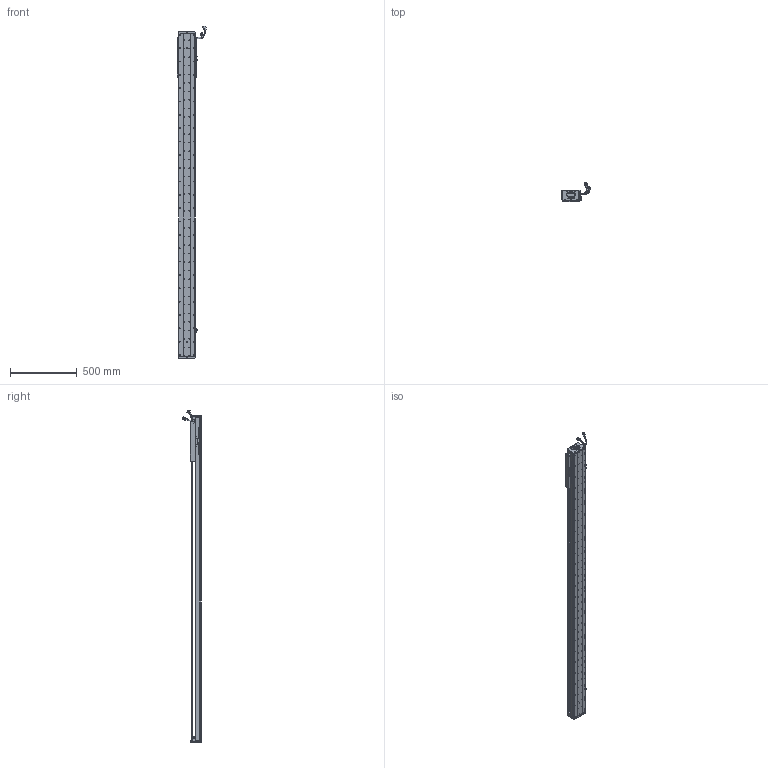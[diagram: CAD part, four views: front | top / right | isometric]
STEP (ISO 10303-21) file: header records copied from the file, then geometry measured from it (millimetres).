
FILE_DESCRIPTION (( 'STEP AP203' ), '1' );
FILE_NAME ('Z4-RY120D-1-L500-B-K.SLDASM_2050.step', '2021-05-17T06:09:20', ( '盈信电脑' ), ( '东莞市道滘镇水果街19号' ), 'SwSTEP 2.0', 'SolidWorks 2016', '' );
FILE_SCHEMA (( 'CONFIG_CONTROL_DESIGN' ));
Length unit declared in the file: millimetre
Products named in the file (37): COVER-Part-1; Z4-RY120铝滑块（21款）; SEAL-Part-1; 080黍杅芛假蚾釱21遴; 140雄赽晤鎢ん堤盄; HOLDER0; Z4-RY120D-1-L500-B-K.SLDASM_2050; Z-RY120D詩湍奻揤裔; RY100FB-遵嫖萇覜茼え; SEAL; SCALE-Part-1; 覜茼ん672; HARNESS-Part-1; HARNESS; SCALE-Part-2; Z4-RY120-L500詩湍100mm遵_2050; SHIELDPLATE; SCREW-M1.6; SCALE; PSLH080_PSLF2; LABEL; SCREW-M1.6-2; 120-Z-臏賑輸盄裔(21遴); Z-RY120D詩湍狟揤裔; COVER; SCREW-M1.6-3; SCREW-M1.7; 672嫖萇羲壽假蚾釱; SCREW-M1.7-1; HARNESS-Part-2; PBU_SHEET; LABEL-Part-1; 榋妏寠巭燃_暯_M2_2; Z-120詩湍傷裔啣; SCREW-M1.6-1; 140蚥薯蝶輸; Z4-RY120-500-倰第菁釱_2050
Assembly tree (43 placements, depth 4):
  Z4-RY120D-1-L500-B-K.SLDASM_2050
    Z4-RY120-500-倰第菁釱_2050
    覜茼ん672  x3
    672嫖萇羲壽假蚾釱  x2
    Z4-RY120铝滑块（21款）
    PSLH080_PSLF2
      SCALE
        SCALE-Part-1
        SCALE-Part-2
      HARNESS
        HARNESS-Part-1
        HARNESS-Part-2
      LABEL
        LABEL-Part-1
      COVER
        COVER-Part-1
      SEAL
        SEAL-Part-1
      榋妏寠巭燃_暯_M2_2
      SHIELDPLATE
      SCREW-M1.7
      SCREW-M1.7-1
      PBU_SHEET
      SCREW-M1.6
      SCREW-M1.6-1
      SCREW-M1.6-2
      SCREW-M1.6-3
      HOLDER0
    080黍杅芛假蚾釱21遴
    120-Z-臏賑輸盄裔(21遴)
    140雄赽晤鎢ん堤盄
    140蚥薯蝶輸  x2
    RY100FB-遵嫖萇覜茼え
    Z-120詩湍傷裔啣  x2
    Z-RY120D詩湍奻揤裔  x2
    Z-RY120D詩湍狟揤裔  x2
    Z4-RY120-L500詩湍100mm遵_2050
Bounding box: 222.88 x 140.94 x 2488.99 mm (x, y, z)
Volume: 6079712.3 mm3; surface area: 2086289.1 mm2
Topology: 38 solids, 38 shells, 3633 faces, 10312 edges, 6508 vertices
Faces by surface type: cylinder 1896, plane 1241, cone 374, torus 69, bspline 53
Entity records: 121181 total; most frequent: CARTESIAN_POINT 36830, ORIENTED_EDGE 17400, DIRECTION 16018, EDGE_CURVE 8700, AXIS2_PLACEMENT_3D 5922, VERTEX_POINT 5628, VECTOR 4174, LINE 4174
